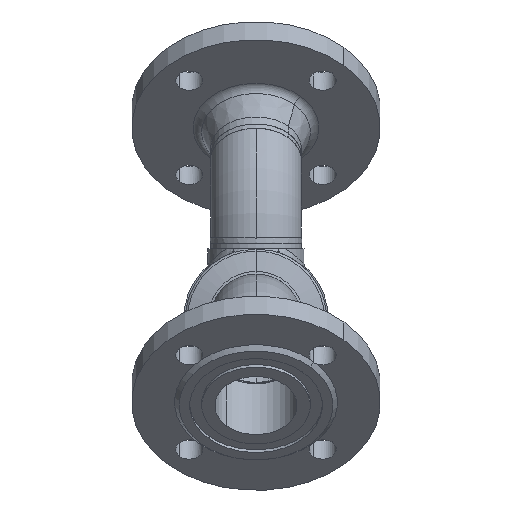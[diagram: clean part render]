
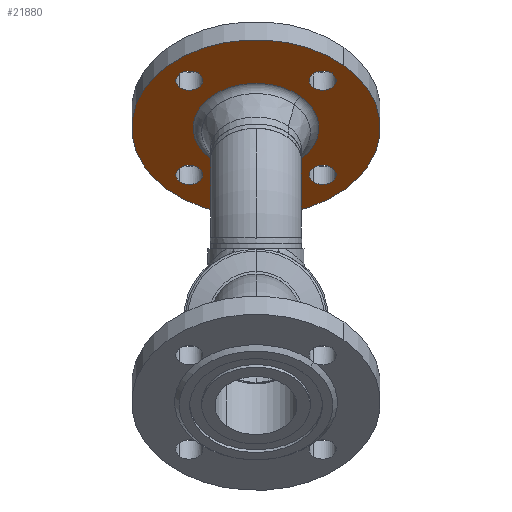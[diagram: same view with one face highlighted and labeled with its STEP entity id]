
A CAD part, front view. The second image highlights one B-rep face of the part: STEP entity #21880.
In plain terms, the highlighted planar face has unit normal (0, -0.707, -0.707) as drawn and (0, 1, 0) by its records, which use the part's own axes.
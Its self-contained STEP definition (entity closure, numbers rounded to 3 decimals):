
#16401 = CARTESIAN_POINT ( 'NONE',  ( 53.5, 20., 0. ) ) ;
#32908 = EDGE_CURVE ( 'NONE', #41190, #5111, #41334, .T. ) ;
#49389 = VERTEX_POINT ( 'NONE', #6159 ) ;
#33383 = CIRCLE ( 'NONE', #33384, 41.687 ) ;
#33384 = AXIS2_PLACEMENT_3D ( 'NONE', #33385, #33386, #33387 ) ;
#33385 = CARTESIAN_POINT ( 'NONE',  ( 0., 20., 0. ) ) ;
#33386 = DIRECTION ( 'NONE',  ( 0., 1., 0. ) ) ;
#33387 = DIRECTION ( 'NONE',  ( -1., 0., 0. ) ) ;
#662 = EDGE_LOOP ( 'NONE', ( #55268, #18152 ) ) ;
#17252 = CARTESIAN_POINT ( 'NONE',  ( -41.687, 20., 0. ) ) ;
#17499 = EDGE_LOOP ( 'NONE', ( #16095, #5617 ) ) ;
#18152 = ORIENTED_EDGE ( 'NONE', *, *, #37811, .F. ) ;
#34628 = VERTEX_POINT ( 'NONE', #16401 ) ;
#51848 = ORIENTED_EDGE ( 'NONE', *, *, #13980, .F. ) ;
#35614 = VERTEX_POINT ( 'NONE', #17252 ) ;
#19564 = EDGE_CURVE ( 'NONE', #37141, #54218, #7663, .T. ) ;
#3198 = EDGE_CURVE ( 'NONE', #12768, #35614, #33383, .T. ) ;
#3447 = EDGE_CURVE ( 'NONE', #46069, #49389, #37148, .T. ) ;
#3550 = ORIENTED_EDGE ( 'NONE', *, *, #22330, .F. ) ;
#53255 = EDGE_LOOP ( 'NONE', ( #51848, #12562 ) ) ;
#4310 = VERTEX_POINT ( 'NONE', #38740 ) ;
#4361 = ORIENTED_EDGE ( 'NONE', *, *, #3447, .F. ) ;
#37141 = VERTEX_POINT ( 'NONE', #31285 ) ;
#37148 = CIRCLE ( 'NONE', #37149, 9. ) ;
#37149 = AXIS2_PLACEMENT_3D ( 'NONE', #37150, #37151, #37152 ) ;
#37150 = CARTESIAN_POINT ( 'NONE',  ( 0., 20., -62.5 ) ) ;
#37151 = DIRECTION ( 'NONE',  ( 0., 1., 0. ) ) ;
#37152 = DIRECTION ( 'NONE',  ( 0., 0., 1. ) ) ;
#53918 = ORIENTED_EDGE ( 'NONE', *, *, #46539, .F. ) ;
#4964 = EDGE_LOOP ( 'NONE', ( #3550, #12769 ) ) ;
#21428 = EDGE_LOOP ( 'NONE', ( #4361, #53918 ) ) ;
#37811 = EDGE_CURVE ( 'NONE', #54218, #37141, #31814, .T. ) ;
#54218 = VERTEX_POINT ( 'NONE', #26575 ) ;
#5111 = VERTEX_POINT ( 'NONE', #40002 ) ;
#21703 = CIRCLE ( 'NONE', #21704, 9. ) ;
#21704 = AXIS2_PLACEMENT_3D ( 'NONE', #21705, #21706, #21707 ) ;
#21705 = CARTESIAN_POINT ( 'NONE',  ( 62.5, 20., 0. ) ) ;
#21706 = DIRECTION ( 'NONE',  ( 0., 1., 0. ) ) ;
#21707 = DIRECTION ( 'NONE',  ( -1., 0., 0. ) ) ;
#21880 = ADVANCED_FACE ( 'NONE', ( #10953, #10954, #10988, #10989, #10990, #10991 ), #10992, .F. ) ;
#5617 = ORIENTED_EDGE ( 'NONE', *, *, #40722, .F. ) ;
#22161 = CARTESIAN_POINT ( 'NONE',  ( -53.5, 20., 0. ) ) ;
#22330 = EDGE_CURVE ( 'NONE', #35614, #12768, #25469, .T. ) ;
#38740 = CARTESIAN_POINT ( 'NONE',  ( 71.5, 20., 0. ) ) ;
#55268 = ORIENTED_EDGE ( 'NONE', *, *, #19564, .F. ) ;
#6159 = CARTESIAN_POINT ( 'NONE',  ( 9., 20., -62.5 ) ) ;
#23218 = CARTESIAN_POINT ( 'NONE',  ( 41.687, 20., 0. ) ) ;
#40002 = CARTESIAN_POINT ( 'NONE',  ( -71.5, 20., 0. ) ) ;
#7663 = CIRCLE ( 'NONE', #7664, 9. ) ;
#7664 = AXIS2_PLACEMENT_3D ( 'NONE', #7665, #7666, #7667 ) ;
#7665 = CARTESIAN_POINT ( 'NONE',  ( 0., 20., 62.5 ) ) ;
#7666 = DIRECTION ( 'NONE',  ( 0., 1., 0. ) ) ;
#7667 = DIRECTION ( 'NONE',  ( 0., 0., -1. ) ) ;
#40722 = EDGE_CURVE ( 'NONE', #4310, #34628, #21703, .T. ) ;
#41190 = VERTEX_POINT ( 'NONE', #22161 ) ;
#24831 = CIRCLE ( 'NONE', #24832, 9. ) ;
#24832 = AXIS2_PLACEMENT_3D ( 'NONE', #24833, #24834, #24835 ) ;
#24833 = CARTESIAN_POINT ( 'NONE',  ( -62.5, 20., 0. ) ) ;
#24834 = DIRECTION ( 'NONE',  ( 0., 1., 0. ) ) ;
#24835 = DIRECTION ( 'NONE',  ( 1., 0., 0. ) ) ;
#41334 = CIRCLE ( 'NONE', #41335, 9. ) ;
#41335 = AXIS2_PLACEMENT_3D ( 'NONE', #41336, #41337, #41338 ) ;
#41336 = CARTESIAN_POINT ( 'NONE',  ( -62.5, 20., 0. ) ) ;
#41337 = DIRECTION ( 'NONE',  ( 0., 1., 0. ) ) ;
#41338 = DIRECTION ( 'NONE',  ( 1., 0., 0. ) ) ;
#8937 = VERTEX_POINT ( 'NONE', #31076 ) ;
#25469 = CIRCLE ( 'NONE', #25470, 41.687 ) ;
#25470 = AXIS2_PLACEMENT_3D ( 'NONE', #25471, #25472, #25508 ) ;
#25471 = CARTESIAN_POINT ( 'NONE',  ( 0., 20., 0. ) ) ;
#25472 = DIRECTION ( 'NONE',  ( 0., 1., 0. ) ) ;
#25508 = DIRECTION ( 'NONE',  ( -1., 0., 0. ) ) ;
#41960 = CARTESIAN_POINT ( 'NONE',  ( -9., 20., -62.5 ) ) ;
#9441 = VERTEX_POINT ( 'NONE', #31672 ) ;
#42298 = CIRCLE ( 'NONE', #42299, 9. ) ;
#42299 = AXIS2_PLACEMENT_3D ( 'NONE', #42300, #42301, #42302 ) ;
#42300 = CARTESIAN_POINT ( 'NONE',  ( 0., 20., -62.5 ) ) ;
#42301 = DIRECTION ( 'NONE',  ( 0., 1., 0. ) ) ;
#42302 = DIRECTION ( 'NONE',  ( 0., 0., 1. ) ) ;
#9542 = EDGE_CURVE ( 'NONE', #8937, #9441, #31679, .T. ) ;
#25996 = CIRCLE ( 'NONE', #25997, 9. ) ;
#25997 = AXIS2_PLACEMENT_3D ( 'NONE', #25998, #25999, #26000 ) ;
#25998 = CARTESIAN_POINT ( 'NONE',  ( 62.5, 20., 0. ) ) ;
#25999 = DIRECTION ( 'NONE',  ( 0., 1., 0. ) ) ;
#26000 = DIRECTION ( 'NONE',  ( -1., 0., 0. ) ) ;
#9846 = ORIENTED_EDGE ( 'NONE', *, *, #45534, .T. ) ;
#26497 = CIRCLE ( 'NONE', #26498, 82.5 ) ;
#26498 = AXIS2_PLACEMENT_3D ( 'NONE', #26499, #26500, #26501 ) ;
#26499 = CARTESIAN_POINT ( 'NONE',  ( 0., 20., 0. ) ) ;
#26500 = DIRECTION ( 'NONE',  ( 0., 1., 0. ) ) ;
#26501 = DIRECTION ( 'NONE',  ( -1., 0., 0. ) ) ;
#26575 = CARTESIAN_POINT ( 'NONE',  ( 9., 20., 62.5 ) ) ;
#10805 = ORIENTED_EDGE ( 'NONE', *, *, #9542, .T. ) ;
#10953 = FACE_BOUND ( 'NONE', #21428, .T. ) ;
#10954 = FACE_BOUND ( 'NONE', #53255, .T. ) ;
#10988 = FACE_BOUND ( 'NONE', #662, .T. ) ;
#10989 = FACE_BOUND ( 'NONE', #17499, .T. ) ;
#10990 = FACE_BOUND ( 'NONE', #4964, .T. ) ;
#10991 = FACE_OUTER_BOUND ( 'NONE', #12206, .T. ) ;
#10992 = PLANE ( 'NONE',  #10993 ) ;
#10993 = AXIS2_PLACEMENT_3D ( 'NONE', #10994, #10995, #10996 ) ;
#10994 = CARTESIAN_POINT ( 'NONE',  ( 82.5, 20., 0. ) ) ;
#10995 = DIRECTION ( 'NONE',  ( 0., -1., 0. ) ) ;
#10996 = DIRECTION ( 'NONE',  ( 1., 0., 0. ) ) ;
#12206 = EDGE_LOOP ( 'NONE', ( #10805, #9846 ) ) ;
#12562 = ORIENTED_EDGE ( 'NONE', *, *, #32908, .F. ) ;
#12768 = VERTEX_POINT ( 'NONE', #23218 ) ;
#45534 = EDGE_CURVE ( 'NONE', #9441, #8937, #26497, .T. ) ;
#12769 = ORIENTED_EDGE ( 'NONE', *, *, #3198, .F. ) ;
#46069 = VERTEX_POINT ( 'NONE', #41960 ) ;
#46539 = EDGE_CURVE ( 'NONE', #49389, #46069, #42298, .T. ) ;
#13980 = EDGE_CURVE ( 'NONE', #5111, #41190, #24831, .T. ) ;
#31076 = CARTESIAN_POINT ( 'NONE',  ( -82.5, 20., 0. ) ) ;
#31285 = CARTESIAN_POINT ( 'NONE',  ( -9., 20., 62.5 ) ) ;
#15086 = EDGE_CURVE ( 'NONE', #34628, #4310, #25996, .T. ) ;
#31672 = CARTESIAN_POINT ( 'NONE',  ( 82.5, 20., 0. ) ) ;
#31679 = CIRCLE ( 'NONE', #31680, 82.5 ) ;
#31680 = AXIS2_PLACEMENT_3D ( 'NONE', #31681, #31682, #31683 ) ;
#31681 = CARTESIAN_POINT ( 'NONE',  ( 0., 20., 0. ) ) ;
#31682 = DIRECTION ( 'NONE',  ( 0., 1., 0. ) ) ;
#31683 = DIRECTION ( 'NONE',  ( -1., 0., 0. ) ) ;
#31814 = CIRCLE ( 'NONE', #31815, 9. ) ;
#31815 = AXIS2_PLACEMENT_3D ( 'NONE', #31816, #31817, #31870 ) ;
#31816 = CARTESIAN_POINT ( 'NONE',  ( 0., 20., 62.5 ) ) ;
#31817 = DIRECTION ( 'NONE',  ( 0., 1., 0. ) ) ;
#31870 = DIRECTION ( 'NONE',  ( 0., 0., -1. ) ) ;
#16095 = ORIENTED_EDGE ( 'NONE', *, *, #15086, .F. ) ;
